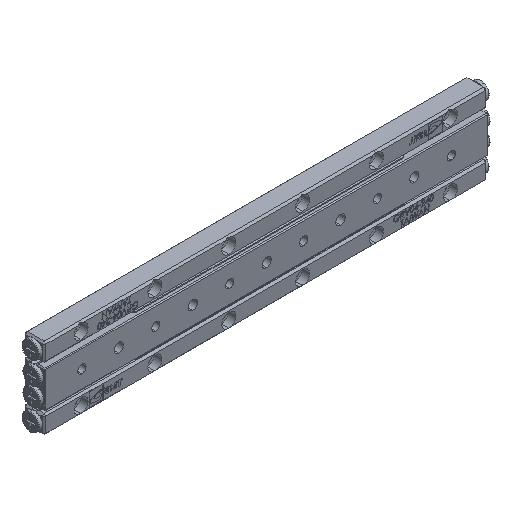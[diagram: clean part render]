
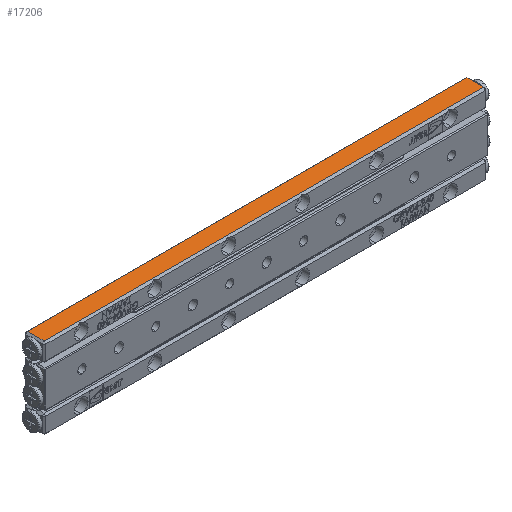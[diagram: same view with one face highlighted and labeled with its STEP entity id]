
A CAD part, isometric view. The second image highlights one B-rep face of the part: STEP entity #17206.
In plain terms, the highlighted planar face has unit normal (0, 0, 1).
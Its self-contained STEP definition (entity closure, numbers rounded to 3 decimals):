
#230 = VERTEX_POINT ( 'NONE', #26379 ) ;
#540 = VERTEX_POINT ( 'NONE', #26280 ) ;
#1861 = EDGE_LOOP ( 'NONE', ( #25883, #25882, #25377, #25874 ) ) ;
#3807 = CARTESIAN_POINT ( 'NONE',  ( 120.081, 12.027, 21.93 ) ) ;
#3811 = CARTESIAN_POINT ( 'NONE',  ( -117.919, 3.027, 21.93 ) ) ;
#4932 = FACE_OUTER_BOUND ( 'NONE', #1861, .T. ) ;
#5520 = LINE ( 'NONE', #28805, #5529 ) ;
#5529 = VECTOR ( 'NONE', #28816, 1000. ) ;
#5532 = LINE ( 'NONE', #28821, #5535 ) ;
#5535 = VECTOR ( 'NONE', #28822, 1000. ) ;
#5555 = LINE ( 'NONE', #28847, #5558 ) ;
#5558 = VECTOR ( 'NONE', #28848, 1000. ) ;
#5592 = LINE ( 'NONE', #28895, #14394 ) ;
#14394 = VECTOR ( 'NONE', #28896, 1000. ) ;
#17206 = ADVANCED_FACE ( 'NONE', ( #4932 ), #30702, .F. ) ;
#19413 = EDGE_CURVE ( 'NONE', #230, #24018, #5520, .T. ) ;
#19416 = EDGE_CURVE ( 'NONE', #24026, #230, #5532, .T. ) ;
#19428 = EDGE_CURVE ( 'NONE', #24018, #540, #5555, .T. ) ;
#19451 = EDGE_CURVE ( 'NONE', #540, #24026, #5592, .T. ) ;
#24018 = VERTEX_POINT ( 'NONE', #3807 ) ;
#24026 = VERTEX_POINT ( 'NONE', #3811 ) ;
#25377 = ORIENTED_EDGE ( 'NONE', *, *, #19428, .T. ) ;
#25874 = ORIENTED_EDGE ( 'NONE', *, *, #19451, .T. ) ;
#25882 = ORIENTED_EDGE ( 'NONE', *, *, #19413, .T. ) ;
#25883 = ORIENTED_EDGE ( 'NONE', *, *, #19416, .T. ) ;
#26280 = CARTESIAN_POINT ( 'NONE',  ( -117.919, 12.027, 21.93 ) ) ;
#26379 = CARTESIAN_POINT ( 'NONE',  ( 120.081, 3.027, 21.93 ) ) ;
#28108 = AXIS2_PLACEMENT_3D ( 'NONE', #30692, #30704, #30705 ) ;
#28805 = CARTESIAN_POINT ( 'NONE',  ( 120.081, 2.027, 21.93 ) ) ;
#28816 = DIRECTION ( 'NONE',  ( 0., 1., 0. ) ) ;
#28821 = CARTESIAN_POINT ( 'NONE',  ( 121.081, 3.027, 21.93 ) ) ;
#28822 = DIRECTION ( 'NONE',  ( 1., 0., 0. ) ) ;
#28847 = CARTESIAN_POINT ( 'NONE',  ( 121.081, 12.027, 21.93 ) ) ;
#28848 = DIRECTION ( 'NONE',  ( -1., 0., 0. ) ) ;
#28895 = CARTESIAN_POINT ( 'NONE',  ( -117.919, 2.027, 21.93 ) ) ;
#28896 = DIRECTION ( 'NONE',  ( 0., -1., 0. ) ) ;
#30692 = CARTESIAN_POINT ( 'NONE',  ( 121.081, 2.027, 21.93 ) ) ;
#30702 = PLANE ( 'NONE',  #28108 ) ;
#30704 = DIRECTION ( 'NONE',  ( 0., 0., -1. ) ) ;
#30705 = DIRECTION ( 'NONE',  ( 1., 0., 0. ) ) ;
